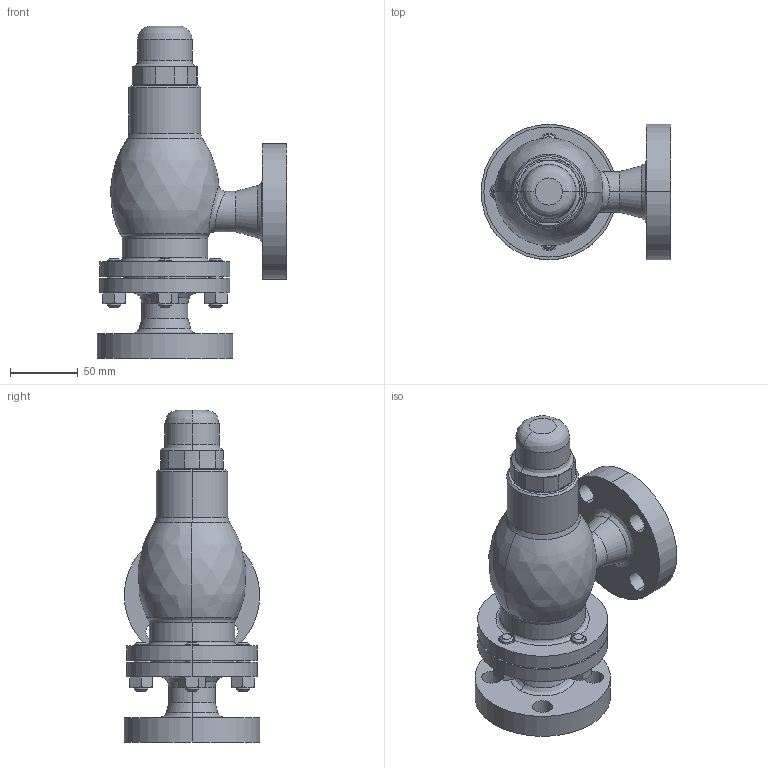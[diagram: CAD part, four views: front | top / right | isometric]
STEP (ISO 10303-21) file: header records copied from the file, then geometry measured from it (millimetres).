
FILE_DESCRIPTION( (''), '2;1');
FILE_NAME ('PC1029.10648.AL-300,301,300T,301T 20A_13264.stp','2024-12-13T15:40:42',(''),(''),'spGate 19.8.4 (****-****-****-****)','','');
FILE_SCHEMA (('AUTOMOTIVE_DESIGN'));
Length unit declared in the file: millimetre
Products named in the file (4): Assembly; ばね箱・弁箱20A; スタッドボルト・ナット15-25A; AL-300 15-25Aキャップ
Assembly tree (6 placements, depth 2):
  Assembly
    ばね箱・弁箱20A
    スタッドボルト・ナット15-25A  x4
    AL-300 15-25Aキャップ
Bounding box: 140 x 100 x 245 mm (x, y, z)
Volume: 990755.7 mm3; surface area: 124260.7 mm2
Topology: 6 solids, 6 shells, 200 faces, 483 edges, 308 vertices
Faces by surface type: cylinder 80, plane 68, bspline 52
Entity records: 8181 total; most frequent: CARTESIAN_POINT 2104, ORIENTED_EDGE 702, DIRECTION 650, COLOUR_RGB 494, PRESENTATION_STYLE_ASSIGNMENT 494, STYLED_ITEM 494, EDGE_CURVE 351, DRAUGHTING_PRE_DEFINED_CURVE_FONT 351
